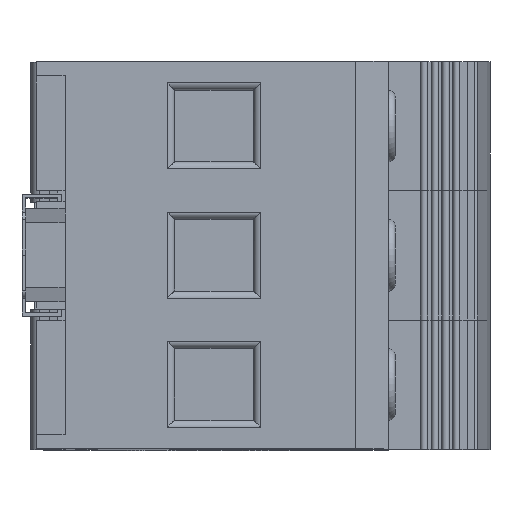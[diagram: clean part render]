
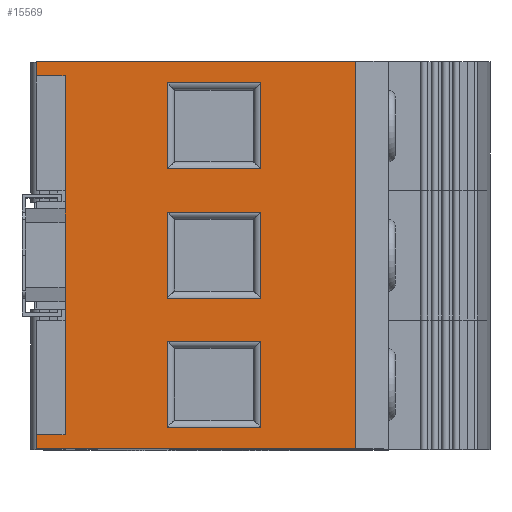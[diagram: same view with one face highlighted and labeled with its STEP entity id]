
A CAD part, top view. The second image highlights one B-rep face of the part: STEP entity #15569.
In plain terms, the highlighted planar face has unit normal (0, 0, 1).
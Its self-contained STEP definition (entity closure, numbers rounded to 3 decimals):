
#15396=CARTESIAN_POINT('',(-14.5,-27.,45.));
#15397=DIRECTION('',(0.,-0.,1.));
#15398=DIRECTION('',(-1.,0.,0.));
#15399=AXIS2_PLACEMENT_3D('',#15396,#15397,#15398);
#15400=PLANE('',#15399);
#15401=CARTESIAN_POINT('',(-0.25,24.,45.));
#15402=VERTEX_POINT('',#15401);
#15403=CARTESIAN_POINT('',(12.75,24.,45.));
#15404=VERTEX_POINT('',#15403);
#15405=CARTESIAN_POINT('',(-0.25,24.,45.));
#15406=DIRECTION('',(1.,-0.,-0.));
#15407=VECTOR('',#15406,13.);
#15408=LINE('',#15405,#15407);
#15409=EDGE_CURVE('',#15402,#15404,#15408,.T.);
#15410=ORIENTED_EDGE('',*,*,#15409,.T.);
#15411=CARTESIAN_POINT('',(12.75,12.,45.));
#15412=VERTEX_POINT('',#15411);
#15413=CARTESIAN_POINT('',(12.75,24.,45.));
#15414=DIRECTION('',(0.,-1.,-0.));
#15415=VECTOR('',#15414,12.);
#15416=LINE('',#15413,#15415);
#15417=EDGE_CURVE('',#15404,#15412,#15416,.T.);
#15418=ORIENTED_EDGE('',*,*,#15417,.T.);
#15419=CARTESIAN_POINT('',(-0.25,12.,45.));
#15420=VERTEX_POINT('',#15419);
#15421=CARTESIAN_POINT('',(12.75,12.,45.));
#15422=DIRECTION('',(-1.,0.,0.));
#15423=VECTOR('',#15422,13.);
#15424=LINE('',#15421,#15423);
#15425=EDGE_CURVE('',#15412,#15420,#15424,.T.);
#15426=ORIENTED_EDGE('',*,*,#15425,.T.);
#15427=CARTESIAN_POINT('',(-0.25,12.,45.));
#15428=DIRECTION('',(-0.,1.,0.));
#15429=VECTOR('',#15428,12.);
#15430=LINE('',#15427,#15429);
#15431=EDGE_CURVE('',#15420,#15402,#15430,.T.);
#15432=ORIENTED_EDGE('',*,*,#15431,.T.);
#15433=EDGE_LOOP('',(#15410,#15418,#15426,#15432));
#15434=FACE_BOUND('',#15433,.T.);
#15435=CARTESIAN_POINT('',(-0.25,6.,45.));
#15436=VERTEX_POINT('',#15435);
#15437=CARTESIAN_POINT('',(12.75,6.,45.));
#15438=VERTEX_POINT('',#15437);
#15439=CARTESIAN_POINT('',(-0.25,6.,45.));
#15440=DIRECTION('',(1.,-0.,-0.));
#15441=VECTOR('',#15440,13.);
#15442=LINE('',#15439,#15441);
#15443=EDGE_CURVE('',#15436,#15438,#15442,.T.);
#15444=ORIENTED_EDGE('',*,*,#15443,.T.);
#15445=CARTESIAN_POINT('',(12.75,-6.,45.));
#15446=VERTEX_POINT('',#15445);
#15447=CARTESIAN_POINT('',(12.75,6.,45.));
#15448=DIRECTION('',(0.,-1.,-0.));
#15449=VECTOR('',#15448,12.);
#15450=LINE('',#15447,#15449);
#15451=EDGE_CURVE('',#15438,#15446,#15450,.T.);
#15452=ORIENTED_EDGE('',*,*,#15451,.T.);
#15453=CARTESIAN_POINT('',(-0.25,-6.,45.));
#15454=VERTEX_POINT('',#15453);
#15455=CARTESIAN_POINT('',(12.75,-6.,45.));
#15456=DIRECTION('',(-1.,0.,0.));
#15457=VECTOR('',#15456,13.);
#15458=LINE('',#15455,#15457);
#15459=EDGE_CURVE('',#15446,#15454,#15458,.T.);
#15460=ORIENTED_EDGE('',*,*,#15459,.T.);
#15461=CARTESIAN_POINT('',(-0.25,-6.,45.));
#15462=DIRECTION('',(-0.,1.,0.));
#15463=VECTOR('',#15462,12.);
#15464=LINE('',#15461,#15463);
#15465=EDGE_CURVE('',#15454,#15436,#15464,.T.);
#15466=ORIENTED_EDGE('',*,*,#15465,.T.);
#15467=EDGE_LOOP('',(#15444,#15452,#15460,#15466));
#15468=FACE_BOUND('',#15467,.T.);
#15469=CARTESIAN_POINT('',(-0.25,-12.,45.));
#15470=VERTEX_POINT('',#15469);
#15471=CARTESIAN_POINT('',(12.75,-12.,45.));
#15472=VERTEX_POINT('',#15471);
#15473=CARTESIAN_POINT('',(-0.25,-12.,45.));
#15474=DIRECTION('',(1.,-0.,-0.));
#15475=VECTOR('',#15474,13.);
#15476=LINE('',#15473,#15475);
#15477=EDGE_CURVE('',#15470,#15472,#15476,.T.);
#15478=ORIENTED_EDGE('',*,*,#15477,.T.);
#15479=CARTESIAN_POINT('',(12.75,-24.,45.));
#15480=VERTEX_POINT('',#15479);
#15481=CARTESIAN_POINT('',(12.75,-12.,45.));
#15482=DIRECTION('',(0.,-1.,-0.));
#15483=VECTOR('',#15482,12.);
#15484=LINE('',#15481,#15483);
#15485=EDGE_CURVE('',#15472,#15480,#15484,.T.);
#15486=ORIENTED_EDGE('',*,*,#15485,.T.);
#15487=CARTESIAN_POINT('',(-0.25,-24.,45.));
#15488=VERTEX_POINT('',#15487);
#15489=CARTESIAN_POINT('',(12.75,-24.,45.));
#15490=DIRECTION('',(-1.,0.,0.));
#15491=VECTOR('',#15490,13.);
#15492=LINE('',#15489,#15491);
#15493=EDGE_CURVE('',#15480,#15488,#15492,.T.);
#15494=ORIENTED_EDGE('',*,*,#15493,.T.);
#15495=CARTESIAN_POINT('',(-0.25,-24.,45.));
#15496=DIRECTION('',(-0.,1.,0.));
#15497=VECTOR('',#15496,12.);
#15498=LINE('',#15495,#15497);
#15499=EDGE_CURVE('',#15488,#15470,#15498,.T.);
#15500=ORIENTED_EDGE('',*,*,#15499,.T.);
#15501=EDGE_LOOP('',(#15478,#15486,#15494,#15500));
#15502=FACE_BOUND('',#15501,.T.);
#15503=CARTESIAN_POINT('',(-18.5,27.,45.));
#15504=VERTEX_POINT('',#15503);
#15505=CARTESIAN_POINT('',(26.,27.,45.));
#15506=VERTEX_POINT('',#15505);
#15507=CARTESIAN_POINT('',(-18.5,27.,45.));
#15508=DIRECTION('',(1.,-0.,-0.));
#15509=VECTOR('',#15508,44.5);
#15510=LINE('',#15507,#15509);
#15511=EDGE_CURVE('',#15504,#15506,#15510,.T.);
#15512=ORIENTED_EDGE('',*,*,#15511,.F.);
#15513=CARTESIAN_POINT('',(-18.5,25.,45.));
#15514=VERTEX_POINT('',#15513);
#15515=CARTESIAN_POINT('',(-18.5,27.,45.));
#15516=DIRECTION('',(0.,-1.,-0.));
#15517=VECTOR('',#15516,2.);
#15518=LINE('',#15515,#15517);
#15519=EDGE_CURVE('',#15504,#15514,#15518,.T.);
#15520=ORIENTED_EDGE('',*,*,#15519,.T.);
#15521=CARTESIAN_POINT('',(-14.5,25.,45.));
#15522=VERTEX_POINT('',#15521);
#15523=CARTESIAN_POINT('',(-18.5,25.,45.));
#15524=DIRECTION('',(1.,-0.,-0.));
#15525=VECTOR('',#15524,4.);
#15526=LINE('',#15523,#15525);
#15527=EDGE_CURVE('',#15514,#15522,#15526,.T.);
#15528=ORIENTED_EDGE('',*,*,#15527,.T.);
#15529=CARTESIAN_POINT('',(-14.5,-25.,45.));
#15530=VERTEX_POINT('',#15529);
#15531=CARTESIAN_POINT('',(-14.5,-25.,45.));
#15532=DIRECTION('',(-0.,1.,0.));
#15533=VECTOR('',#15532,50.);
#15534=LINE('',#15531,#15533);
#15535=EDGE_CURVE('',#15530,#15522,#15534,.T.);
#15536=ORIENTED_EDGE('',*,*,#15535,.F.);
#15537=CARTESIAN_POINT('',(-18.5,-25.,45.));
#15538=VERTEX_POINT('',#15537);
#15539=CARTESIAN_POINT('',(-18.5,-25.,45.));
#15540=DIRECTION('',(1.,-0.,-0.));
#15541=VECTOR('',#15540,4.);
#15542=LINE('',#15539,#15541);
#15543=EDGE_CURVE('',#15538,#15530,#15542,.T.);
#15544=ORIENTED_EDGE('',*,*,#15543,.F.);
#15545=CARTESIAN_POINT('',(-18.5,-27.,45.));
#15546=VERTEX_POINT('',#15545);
#15547=CARTESIAN_POINT('',(-18.5,-25.,45.));
#15548=DIRECTION('',(0.,-1.,-0.));
#15549=VECTOR('',#15548,2.);
#15550=LINE('',#15547,#15549);
#15551=EDGE_CURVE('',#15538,#15546,#15550,.T.);
#15552=ORIENTED_EDGE('',*,*,#15551,.T.);
#15553=CARTESIAN_POINT('',(26.,-27.,45.));
#15554=VERTEX_POINT('',#15553);
#15555=CARTESIAN_POINT('',(-18.5,-27.,45.));
#15556=DIRECTION('',(1.,-0.,-0.));
#15557=VECTOR('',#15556,44.5);
#15558=LINE('',#15555,#15557);
#15559=EDGE_CURVE('',#15546,#15554,#15558,.T.);
#15560=ORIENTED_EDGE('',*,*,#15559,.T.);
#15561=CARTESIAN_POINT('',(26.,-27.,45.));
#15562=DIRECTION('',(-0.,1.,0.));
#15563=VECTOR('',#15562,54.);
#15564=LINE('',#15561,#15563);
#15565=EDGE_CURVE('',#15554,#15506,#15564,.T.);
#15566=ORIENTED_EDGE('',*,*,#15565,.T.);
#15567=EDGE_LOOP('',(#15512,#15520,#15528,#15536,#15544,#15552,#15560,#15566));
#15568=FACE_BOUND('',#15567,.T.);
#15569=ADVANCED_FACE('',(#15434,#15468,#15502,#15568),#15400,.T.);
